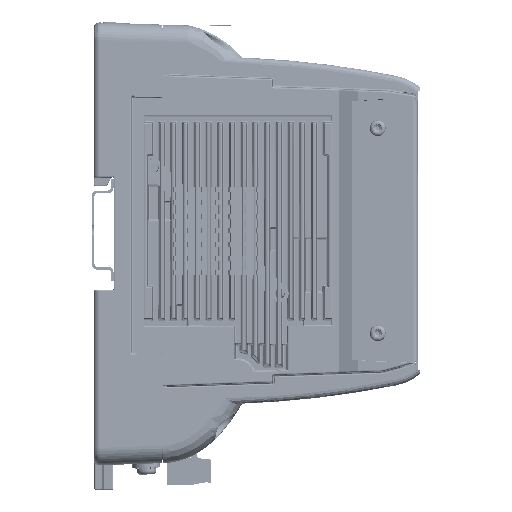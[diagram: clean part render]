
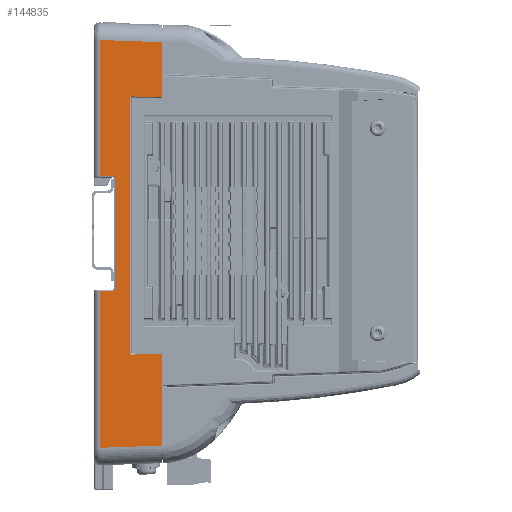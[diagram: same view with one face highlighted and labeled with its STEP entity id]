
A CAD part, left-side view. The second image highlights one B-rep face of the part: STEP entity #144835.
In plain terms, the highlighted planar face has unit normal (-0.999, -0.035, 0) as drawn and (0.999, 0.035, 0) by its records, which use the part's own axes.
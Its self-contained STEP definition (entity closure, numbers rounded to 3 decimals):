
#2419=ELLIPSE('',#152350,0.7,0.7);
#2420=ELLIPSE('',#152351,1.001,1.);
#2421=ELLIPSE('',#152352,1.001,1.);
#2422=ELLIPSE('',#152353,0.7,0.7);
#4123=PLANE('',#152349);
#13744=ORIENTED_EDGE('',*,*,#48113,.F.);
#13745=ORIENTED_EDGE('',*,*,#48114,.T.);
#13746=ORIENTED_EDGE('',*,*,#48115,.T.);
#13747=ORIENTED_EDGE('',*,*,#48116,.T.);
#13748=ORIENTED_EDGE('',*,*,#48110,.F.);
#13749=ORIENTED_EDGE('',*,*,#48117,.T.);
#13750=ORIENTED_EDGE('',*,*,#48118,.T.);
#13751=ORIENTED_EDGE('',*,*,#48119,.T.);
#13752=ORIENTED_EDGE('',*,*,#48120,.T.);
#13753=ORIENTED_EDGE('',*,*,#48121,.T.);
#13754=ORIENTED_EDGE('',*,*,#48100,.F.);
#13755=ORIENTED_EDGE('',*,*,#48122,.T.);
#13756=ORIENTED_EDGE('',*,*,#48123,.T.);
#13757=ORIENTED_EDGE('',*,*,#48124,.T.);
#13758=ORIENTED_EDGE('',*,*,#48125,.F.);
#13759=ORIENTED_EDGE('',*,*,#48126,.T.);
#48100=EDGE_CURVE('',#65268,#65269,#75773,.T.);
#48110=EDGE_CURVE('',#65278,#65279,#75780,.T.);
#48113=EDGE_CURVE('',#65281,#65282,#2419,.T.);
#48114=EDGE_CURVE('',#65281,#65283,#75782,.F.);
#48115=EDGE_CURVE('',#65283,#65284,#75783,.T.);
#48116=EDGE_CURVE('',#65284,#65279,#75784,.T.);
#48117=EDGE_CURVE('',#65278,#65285,#75785,.T.);
#48118=EDGE_CURVE('',#65285,#65286,#2420,.F.);
#48119=EDGE_CURVE('',#65286,#65287,#75786,.T.);
#48120=EDGE_CURVE('',#65287,#65288,#2421,.F.);
#48121=EDGE_CURVE('',#65288,#65269,#75787,.T.);
#48122=EDGE_CURVE('',#65268,#65289,#75788,.F.);
#48123=EDGE_CURVE('',#65289,#65290,#75789,.T.);
#48124=EDGE_CURVE('',#65290,#65291,#75790,.F.);
#48125=EDGE_CURVE('',#65292,#65291,#2422,.T.);
#48126=EDGE_CURVE('',#65292,#65282,#75791,.F.);
#65268=VERTEX_POINT('',#200514);
#65269=VERTEX_POINT('',#200516);
#65278=VERTEX_POINT('',#200535);
#65279=VERTEX_POINT('',#200537);
#65281=VERTEX_POINT('',#200543);
#65282=VERTEX_POINT('',#200544);
#65283=VERTEX_POINT('',#200546);
#65284=VERTEX_POINT('',#200548);
#65285=VERTEX_POINT('',#200551);
#65286=VERTEX_POINT('',#200553);
#65287=VERTEX_POINT('',#200555);
#65288=VERTEX_POINT('',#200557);
#65289=VERTEX_POINT('',#200560);
#65290=VERTEX_POINT('',#200562);
#65291=VERTEX_POINT('',#200564);
#65292=VERTEX_POINT('',#200566);
#75773=LINE('',#200515,#85164);
#75780=LINE('',#200536,#85171);
#75782=LINE('',#200545,#85173);
#75783=LINE('',#200547,#85174);
#75784=LINE('',#200549,#85175);
#75785=LINE('',#200550,#85176);
#75786=LINE('',#200554,#85177);
#75787=LINE('',#200558,#85178);
#75788=LINE('',#200559,#85179);
#75789=LINE('',#200561,#85180);
#75790=LINE('',#200563,#85181);
#75791=LINE('',#200567,#85182);
#85164=VECTOR('',#165465,1000.);
#85171=VECTOR('',#165480,1000.);
#85173=VECTOR('',#165488,1000.);
#85174=VECTOR('',#165489,1000.);
#85175=VECTOR('',#165490,1000.);
#85176=VECTOR('',#165491,1000.);
#85177=VECTOR('',#165494,1000.);
#85178=VECTOR('',#165497,1000.);
#85179=VECTOR('',#165498,1000.);
#85180=VECTOR('',#165499,1000.);
#85181=VECTOR('',#165500,1000.);
#85182=VECTOR('',#165503,1000.);
#94143=EDGE_LOOP('',(#13744,#13745,#13746,#13747,#13748,#13749,#13750,#13751,
#13752,#13753,#13754,#13755,#13756,#13757,#13758,#13759));
#102095=FACE_BOUND('',#94143,.T.);
#144835=ADVANCED_FACE('',(#102095),#4123,.T.);
#152349=AXIS2_PLACEMENT_3D('',#200541,#165484,#165485);
#152350=AXIS2_PLACEMENT_3D('',#200542,#165486,#165487);
#152351=AXIS2_PLACEMENT_3D('',#200552,#165492,#165493);
#152352=AXIS2_PLACEMENT_3D('',#200556,#165495,#165496);
#152353=AXIS2_PLACEMENT_3D('',#200565,#165501,#165502);
#165465=DIRECTION('',(0.,0.,-1.));
#165480=DIRECTION('',(0.,0.,-1.));
#165484=DIRECTION('',(0.999,0.035,0.));
#165485=DIRECTION('',(-0.035,0.999,0.));
#165486=DIRECTION('',(0.999,0.035,0.));
#165487=DIRECTION('',(0.035,-0.999,0.));
#165488=DIRECTION('',(-0.035,0.999,0.));
#165489=DIRECTION('',(0.,0.,-1.));
#165490=DIRECTION('',(-0.035,0.999,0.035));
#165491=DIRECTION('',(0.035,-0.999,0.));
#165492=DIRECTION('',(0.999,0.035,0.));
#165493=DIRECTION('',(0.035,-0.999,0.));
#165494=DIRECTION('',(0.,0.,1.));
#165495=DIRECTION('',(0.999,0.035,0.));
#165496=DIRECTION('',(0.035,-0.999,0.));
#165497=DIRECTION('',(-0.035,0.999,0.));
#165498=DIRECTION('',(-0.035,0.999,-0.035));
#165499=DIRECTION('',(0.,0.,-1.));
#165500=DIRECTION('',(0.035,-0.999,0.));
#165501=DIRECTION('',(0.999,0.035,0.));
#165502=DIRECTION('',(0.035,-0.999,0.));
#165503=DIRECTION('',(0.,0.,1.));
#200514=CARTESIAN_POINT('',(48.75,0.,63.594));
#200515=CARTESIAN_POINT('',(48.75,0.,0.));
#200516=CARTESIAN_POINT('',(48.75,0.,45.));
#200535=CARTESIAN_POINT('',(48.75,0.,-42.75));
#200536=CARTESIAN_POINT('',(48.75,0.,0.));
#200537=CARTESIAN_POINT('',(48.75,0.,-74.064));
#200541=CARTESIAN_POINT('',(49.56,-23.196,39.858));
#200542=CARTESIAN_POINT('',(49.334,-16.734,-20.65));
#200543=CARTESIAN_POINT('',(49.334,-16.734,-21.35));
#200544=CARTESIAN_POINT('',(49.31,-16.034,-20.65));
#200545=CARTESIAN_POINT('',(49.488,-21.126,-21.35));
#200546=CARTESIAN_POINT('',(49.488,-21.126,-21.35));
#200547=CARTESIAN_POINT('',(49.488,-21.126,-74.874));
#200548=CARTESIAN_POINT('',(49.488,-21.126,-74.802));
#200549=CARTESIAN_POINT('',(49.42,-19.199,-74.735));
#200550=CARTESIAN_POINT('',(49.56,-23.196,-42.75));
#200551=CARTESIAN_POINT('',(49.06,-8.867,-42.75));
#200552=CARTESIAN_POINT('',(49.09,-9.733,-42.25));
#200553=CARTESIAN_POINT('',(49.125,-10.733,-42.25));
#200554=CARTESIAN_POINT('',(49.125,-10.733,39.858));
#200555=CARTESIAN_POINT('',(49.125,-10.733,44.5));
#200556=CARTESIAN_POINT('',(49.09,-9.733,44.5));
#200557=CARTESIAN_POINT('',(49.06,-8.867,45.));
#200558=CARTESIAN_POINT('',(49.56,-23.196,45.));
#200559=CARTESIAN_POINT('',(49.53,-22.341,64.374));
#200560=CARTESIAN_POINT('',(49.488,-21.126,64.331));
#200561=CARTESIAN_POINT('',(49.488,-21.126,17.55));
#200562=CARTESIAN_POINT('',(49.488,-21.126,17.9));
#200563=CARTESIAN_POINT('',(49.323,-16.396,17.9));
#200564=CARTESIAN_POINT('',(49.334,-16.734,17.9));
#200565=CARTESIAN_POINT('',(49.334,-16.734,17.2));
#200566=CARTESIAN_POINT('',(49.31,-16.034,17.2));
#200567=CARTESIAN_POINT('',(49.31,-16.034,-21.));
